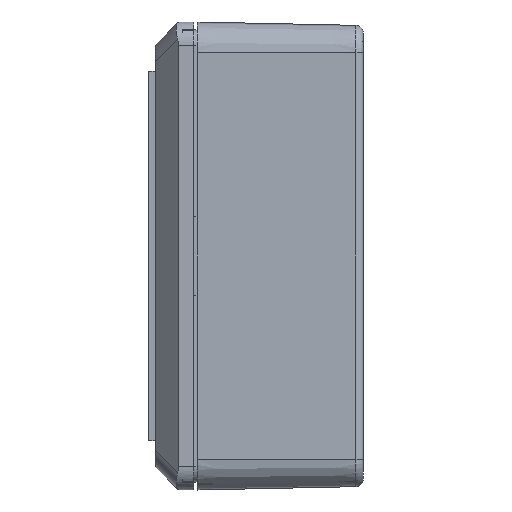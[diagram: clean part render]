
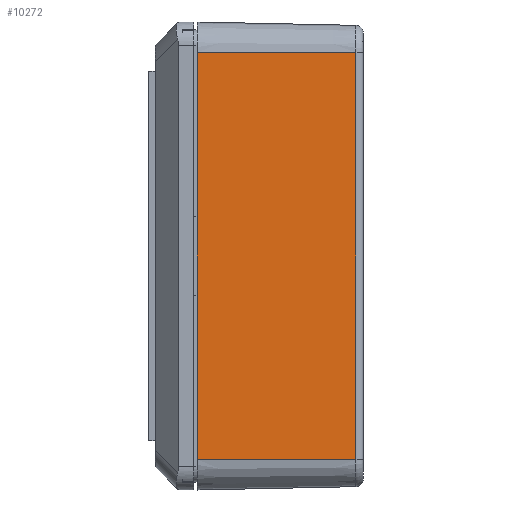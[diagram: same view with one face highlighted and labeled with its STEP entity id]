
A CAD part, left-side view. The second image highlights one B-rep face of the part: STEP entity #10272.
In plain terms, the highlighted planar face has unit normal (-1, -0.021, 0).
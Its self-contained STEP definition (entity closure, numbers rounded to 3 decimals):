
#1629 = EDGE_CURVE ( 'NONE', #9205, #4372, #3550, .T. ) ;
#1641 = CARTESIAN_POINT ( 'NONE',  ( -65.025, 0., -26.3 ) ) ;
#1748 = VECTOR ( 'NONE', #5060, 1000. ) ;
#1827 = CARTESIAN_POINT ( 'NONE',  ( -65.475, 21.5, 26.3 ) ) ;
#2008 = LINE ( 'NONE', #1827, #5569 ) ;
#2247 = VECTOR ( 'NONE', #4642, 1000. ) ;
#2259 = CARTESIAN_POINT ( 'NONE',  ( -65.475, 21.5, 26.3 ) ) ;
#3032 = EDGE_LOOP ( 'NONE', ( #17013, #11382, #10041, #4329 ) ) ;
#3550 = LINE ( 'NONE', #8445, #10778 ) ;
#4329 = ORIENTED_EDGE ( 'NONE', *, *, #10319, .F. ) ;
#4372 = VERTEX_POINT ( 'NONE', #11044 ) ;
#4642 = DIRECTION ( 'NONE',  ( 0., 0., 1. ) ) ;
#5060 = DIRECTION ( 'NONE',  ( 0.021, -1., 0. ) ) ;
#5569 = VECTOR ( 'NONE', #9918, 1000. ) ;
#5702 = DIRECTION ( 'NONE',  ( -1., -0.021, 0. ) ) ;
#5799 = LINE ( 'NONE', #15457, #2247 ) ;
#6031 = CARTESIAN_POINT ( 'NONE',  ( -65.475, 21.5, -26.3 ) ) ;
#6444 = CARTESIAN_POINT ( 'NONE',  ( -65.025, 0., 26.3 ) ) ;
#8445 = CARTESIAN_POINT ( 'NONE',  ( -65.025, 0., -26.3 ) ) ;
#9205 = VERTEX_POINT ( 'NONE', #6031 ) ;
#9918 = DIRECTION ( 'NONE',  ( 0., 0., 1. ) ) ;
#10041 = ORIENTED_EDGE ( 'NONE', *, *, #11298, .F. ) ;
#10272 = ADVANCED_FACE ( 'NONE', ( #10878 ), #13824, .T. ) ;
#10319 = EDGE_CURVE ( 'NONE', #9205, #13985, #2008, .T. ) ;
#10778 = VECTOR ( 'NONE', #17427, 1000. ) ;
#10788 = AXIS2_PLACEMENT_3D ( 'NONE', #1641, #5702, #15189 ) ;
#10878 = FACE_OUTER_BOUND ( 'NONE', #3032, .T. ) ;
#11044 = CARTESIAN_POINT ( 'NONE',  ( -65.046, 0.979, -26.3 ) ) ;
#11298 = EDGE_CURVE ( 'NONE', #13985, #11932, #12554, .T. ) ;
#11382 = ORIENTED_EDGE ( 'NONE', *, *, #14841, .T. ) ;
#11932 = VERTEX_POINT ( 'NONE', #12082 ) ;
#12082 = CARTESIAN_POINT ( 'NONE',  ( -65.046, 0.979, 26.3 ) ) ;
#12554 = LINE ( 'NONE', #6444, #1748 ) ;
#13824 = PLANE ( 'NONE',  #10788 ) ;
#13985 = VERTEX_POINT ( 'NONE', #2259 ) ;
#14841 = EDGE_CURVE ( 'NONE', #4372, #11932, #5799, .T. ) ;
#15189 = DIRECTION ( 'NONE',  ( 0.021, -1., 0. ) ) ;
#15457 = CARTESIAN_POINT ( 'NONE',  ( -65.046, 0.979, 26.3 ) ) ;
#17013 = ORIENTED_EDGE ( 'NONE', *, *, #1629, .T. ) ;
#17427 = DIRECTION ( 'NONE',  ( 0.021, -1., 0. ) ) ;
